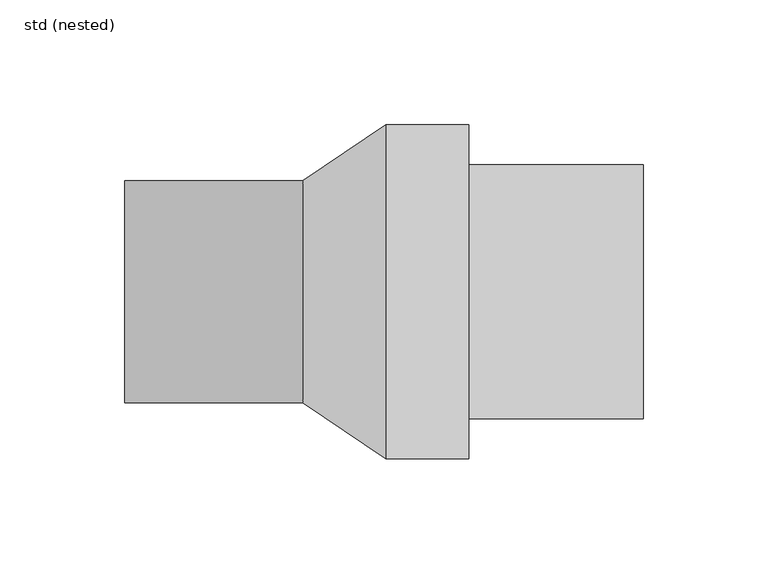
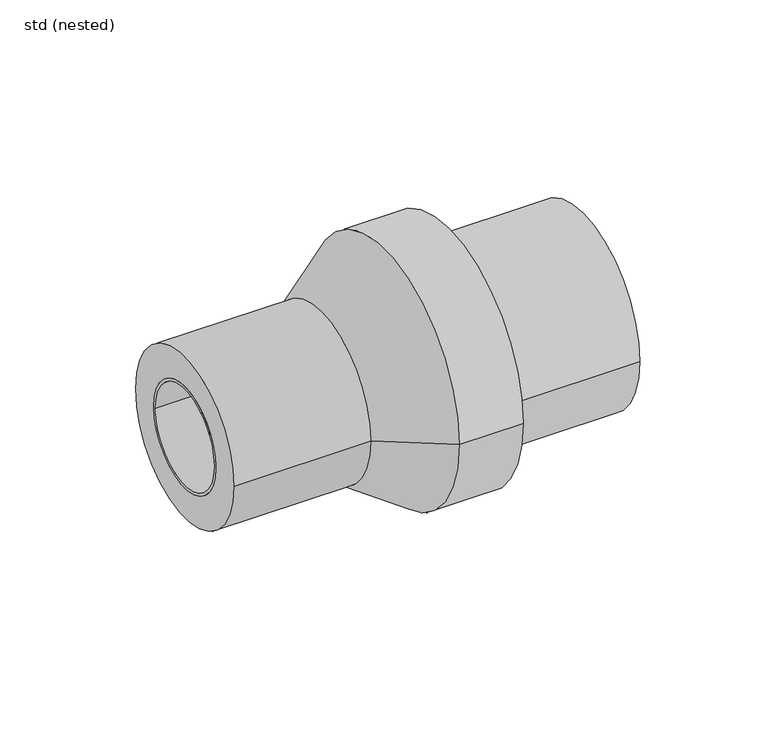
"""IFC4 building model written with IfcOpenShell, lengths in millimetres: pipe fitting geometry, ZZZ_do not use_PIF_ST_WPB_GM-X compound pipe reducer_ACO : std (nested)."""

from ifc_helpers import new_model, si_unit, point, frame, origin, origin_2d, place, context, project, spatial, polyline, circle_curve, trimmed, segment, composite_curve, outline, extrude, source, transform, mapped, element, save
from ifc_brep_helpers import plane_surface, cylinder_surface, revolved_surface, advanced_brep


def std_nested_f3e63bdc(model_context):
    return source(origin(), model_context, "Body", "SolidModel", [
        advanced_brep(
        [(-203.2, -31.5, 0.0), (-203.2, 31.5, 0.0), (-190.0, 31.5, 0.0), (-190.0, -31.5, 0.0), (-208.0, 28.0, 0.0), (-208.0, -28.0, 0.0), (-208.0, -26.5, 0.0), (-208.0, 26.5, 0.0), (-170.0, 28.0, 0.0), (-170.0, -28.0, 0.0), (-170.0, 26.5, 0.0), (-170.0, -26.5, 0.0), (-203.2, 28.0, 0.0), (-203.2, -28.0, 0.0), (-190.0, -28.0, 0.0), (-190.0, 28.0, 0.0)],
        [
            (0, 1, circle_curve(frame((-203.2, 0.0, 0.0), z_axis=(1.0, 0.0, 0.0), x_axis=(0.0, -1.0, 0.0)), 31.5)),
            (1, 2),
            (2, 3, circle_curve(frame((-190.0, 0.0, 0.0), z_axis=(-1.0, 0.0, 0.0), x_axis=(0.0, -1.0, 0.0)), 31.5)),
            (3, 0),
            (1, 0, circle_curve(frame((-203.2, 0.0, 0.0), z_axis=(1.0, 0.0, 0.0), x_axis=(0.0, -1.0, 0.0)), 31.5)),
            (3, 2, circle_curve(frame((-190.0, 0.0, 0.0), z_axis=(-1.0, 0.0, 0.0), x_axis=(0.0, -1.0, 0.0)), 31.5)),
            (4, 5, circle_curve(frame((-208.0, 0.0, 0.0), z_axis=(-1.0, 0.0, 0.0), x_axis=(0.0, -1.0, 0.0)), 28.0)),
            (5, 4, circle_curve(frame((-208.0, 0.0, 0.0), z_axis=(-1.0, 0.0, 0.0), x_axis=(0.0, -1.0, 0.0)), 28.0)),
            (6, 7, circle_curve(frame((-208.0, 0.0, 0.0), z_axis=(1.0, 0.0, 0.0), x_axis=(0.0, -1.0, 0.0)), 26.5)),
            (7, 6, circle_curve(frame((-208.0, 0.0, 0.0), z_axis=(1.0, 0.0, 0.0), x_axis=(0.0, -1.0, 0.0)), 26.5)),
            (8, 9, circle_curve(frame((-170.0, 0.0, 0.0), z_axis=(1.0, 0.0, 0.0), x_axis=(0.0, -1.0, 0.0)), 28.0)),
            (9, 8, circle_curve(frame((-170.0, 0.0, 0.0), z_axis=(1.0, 0.0, 0.0), x_axis=(0.0, -1.0, 0.0)), 28.0)),
            (10, 11, circle_curve(frame((-170.0, 0.0, 0.0), z_axis=(-1.0, 0.0, 0.0), x_axis=(0.0, -1.0, 0.0)), 26.5)),
            (11, 10, circle_curve(frame((-170.0, 0.0, 0.0), z_axis=(-1.0, 0.0, 0.0), x_axis=(0.0, -1.0, 0.0)), 26.5)),
            (4, 12),
            (12, 13, circle_curve(frame((-203.2, 0.0, 0.0), z_axis=(-1.0, 0.0, 0.0), x_axis=(0.0, -1.0, 0.0)), 28.0)),
            (13, 5),
            (9, 14),
            (14, 15, circle_curve(frame((-190.0, 0.0, 0.0), z_axis=(1.0, 0.0, 0.0), x_axis=(0.0, -1.0, 0.0)), 28.0)),
            (15, 8),
            (13, 12, circle_curve(frame((-203.2, 0.0, 0.0), z_axis=(-1.0, 0.0, 0.0), x_axis=(0.0, -1.0, 0.0)), 28.0)),
            (15, 14, circle_curve(frame((-190.0, 0.0, 0.0), z_axis=(1.0, 0.0, 0.0), x_axis=(0.0, -1.0, 0.0)), 28.0)),
            (6, 11),
            (10, 7),
        ],
        [
            cylinder_surface(frame((-190.0, 0.0, 0.0), z_axis=(-1.0, 0.0, 0.0), x_axis=(0.0, -1.0, 0.0)), 31.5),
            plane_surface(frame((-208.0, -28.0, 0.0), z_axis=(-1.0, 0.0, 0.0), x_axis=(0.0, 0.0, 1.0))),
            plane_surface(frame((-170.0, -28.0, 0.0), z_axis=(1.0, 0.0, 0.0), x_axis=(0.0, 0.0, -1.0))),
            cylinder_surface(frame((-170.0, 0.0, 0.0), z_axis=(-1.0, 0.0, 0.0), x_axis=(0.0, -1.0, 0.0)), 28.0),
            revolved_surface(polyline([(-208.0, -26.5, 0.0), (-170.0, -26.5, 0.0)]), (-170.0, 0.0, 0.0), (-1.0, 0.0, 0.0)),
            plane_surface(frame((-203.2, -31.5, 0.0), z_axis=(-1.0, 0.0, 0.0), x_axis=(0.0, 0.0, 1.0))),
            plane_surface(frame((-190.0, -31.5, 0.0), z_axis=(1.0, 0.0, 0.0), x_axis=(0.0, 0.0, -1.0))),
        ],
        [
            (0, [[1, 2, 3, 4]]),
            (0, [[5, -4, 6, -2]]),
            (1, [[7, 8], [9, 10]]),
            (2, [[11, 12], [13, 14]]),
            (3, [[-7, 15, 16, 17]]),
            (3, [[-12, 18, 19, 20]]),
            (3, [[-8, -17, 21, -15]]),
            (3, [[-11, -20, 22, -18]]),
            (4, [[23, -13, 24, -9]]),
            (4, [[-23, -10, -24, -14]]),
            (5, [[-1, -5], [-16, -21]]),
            (6, [[-6, -3], [-19, -22]]),
        ],
    ),
        advanced_brep(
        [(-208.0, -44.5, 0.0), (-208.0, 44.5, 0.0), (-208.0, 28.0, 0.0), (-208.0, -28.0, 0.0), (-136.6666667, -44.5, 0.0), (-136.6666667, 44.5, 0.0), (-170.0, -28.0, 0.0), (-170.0, 28.0, 0.0), (-103.3333333, 67.0, 0.0), (-103.3333333, -67.0, 0.0), (-70.0, 67.0, 0.0), (-70.0, -67.0, 0.0)],
        [
            (0, 1, circle_curve(frame((-208.0, 0.0, 0.0), z_axis=(-1.0, 0.0, 0.0), x_axis=(0.0, 1.0, 0.0)), 44.5)),
            (1, 0, circle_curve(frame((-208.0, 0.0, 0.0), z_axis=(-1.0, 0.0, 0.0), x_axis=(0.0, 1.0, 0.0)), 44.5)),
            (2, 3, circle_curve(frame((-208.0, 0.0, 0.0), z_axis=(1.0, 0.0, 0.0), x_axis=(0.0, 1.0, 0.0)), 28.0)),
            (3, 2, circle_curve(frame((-208.0, 0.0, 0.0), z_axis=(1.0, 0.0, 0.0), x_axis=(0.0, 1.0, 0.0)), 28.0)),
            (0, 4),
            (4, 5, circle_curve(frame((-136.6666667, 0.0, 0.0), z_axis=(-1.0, 0.0, 0.0), x_axis=(0.0, 1.0, 0.0)), 44.5)),
            (5, 1),
            (5, 4, circle_curve(frame((-136.6666667, 0.0, 0.0), z_axis=(-1.0, 0.0, 0.0), x_axis=(0.0, 1.0, 0.0)), 44.5)),
            (6, 7, circle_curve(frame((-170.0, 0.0, 0.0), z_axis=(-1.0, 0.0, 0.0), x_axis=(0.0, 1.0, 0.0)), 28.0)),
            (7, 6, circle_curve(frame((-170.0, 0.0, 0.0), z_axis=(-1.0, 0.0, 0.0), x_axis=(0.0, 1.0, 0.0)), 28.0)),
            (6, 3),
            (2, 7),
            (5, 8),
            (8, 9, circle_curve(frame((-103.3333333, 0.0, 0.0), z_axis=(-1.0, 0.0, 0.0), x_axis=(0.0, -1.0, 0.0)), 67.0)),
            (9, 4),
            (9, 8, circle_curve(frame((-103.3333333, 0.0, 0.0), z_axis=(-1.0, 0.0, 0.0), x_axis=(0.0, 1.0, 0.0)), 67.0)),
            (10, 11, circle_curve(frame((-70.0, 0.0, 0.0), z_axis=(1.0, 0.0, 0.0), x_axis=(0.0, -1.0, 0.0)), 67.0)),
            (11, 10, circle_curve(frame((-70.0, 0.0, 0.0), z_axis=(1.0, 0.0, 0.0), x_axis=(0.0, -1.0, 0.0)), 67.0)),
            (10, 8),
            (9, 11),
        ],
        [
            plane_surface(frame((-208.0, 44.5, 0.0), z_axis=(-1.0, 0.0, 0.0), x_axis=(0.0, 0.0, -1.0))),
            cylinder_surface(frame((-136.6666667, 0.0, 0.0), z_axis=(-1.0, 0.0, 0.0), x_axis=(0.0, 1.0, 0.0)), 44.5),
            plane_surface(frame((-170.0, 28.0, 0.0), z_axis=(-1.0, 0.0, 0.0), x_axis=(0.0, 0.0, 1.0))),
            revolved_surface(polyline([(-208.0, 28.0, 0.0), (-170.0, 28.0, 0.0)]), (-170.0, 0.0, 0.0), (-1.0, 0.0, 0.0)),
            revolved_surface(polyline([(-136.6666667, 44.499999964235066, 0.0), (-103.3333333, 67.0, 0.0)]), (-202.5925926, 0.0, 0.0), (1.0, 0.0, 0.0)),
            plane_surface(frame((-70.0, -67.0, 0.0), z_axis=(1.0, 0.0, 0.0), x_axis=(0.0, 0.0, -1.0))),
            cylinder_surface(frame((-103.3333333, 0.0, 0.0), z_axis=(1.0, 0.0, 0.0), x_axis=(0.0, -1.0, 0.0)), 67.0),
        ],
        [
            (0, [[1, 2], [3, 4]]),
            (1, [[-1, 5, 6, 7]]),
            (1, [[-2, -7, 8, -5]]),
            (2, [[9, 10]]),
            (3, [[-9, 11, -3, 12]]),
            (3, [[-10, -12, -4, -11]]),
            (4, [[13, 14, 15, -8]]),
            (4, [[-13, -6, -15, 16]]),
            (5, [[17, 18]]),
            (6, [[-17, 19, -16, 20]]),
            (6, [[-18, -20, -14, -19]]),
        ],
    ),
        extrude(outline(composite_curve([segment(trimmed(circle_curve(origin_2d(), 51.0), [point((51.0, 0.0))], [point((-51.0, 0.0))], False, "CARTESIAN"), True, "CONTINUOUS"), segment(trimmed(circle_curve(origin_2d(), 51.0), [point((-51.0, 0.0))], [point((51.0, 0.0))], False, "CARTESIAN"), True, "CONTINUOUS")], self_intersect=False)), frame((-70.0, 0.0, 0.0), z_axis=(1.0, 0.0, 0.0), x_axis=(0.0, 1.0, 0.0)), (0.0, 0.0, 1.0), 70.0),
    ])


if __name__ == "__main__":
    model = new_model("IFC4")
    model_context = context("Model", 3, world=origin())
    ifc_project = project(units=[si_unit("LENGTHUNIT", "METRE", prefix="MILLI")], contexts=[model_context])
    site = spatial("IfcSite", under=ifc_project)
    building = spatial("IfcBuilding", under=site)
    placement = place(None, origin())
    std_nested_shape = std_nested_f3e63bdc(model_context)
    element("IfcPipeFitting", 1, ObjectType="ZZZ_do not use_PIF_ST_WPB_GM-X compound pipe reducer_ACO : std (nested)", at=placement, inside=building, context=model_context, shape_type="MappedRepresentation", body=[
        mapped(std_nested_shape, transform((0.0, 0.0, 0.0), x_axis=(1.0, 0.0, 0.0), y_axis=(0.0, 1.0, 0.0), z_axis=(0.0, 0.0, 1.0))),
    ])
    save(model, "model.ifc")
